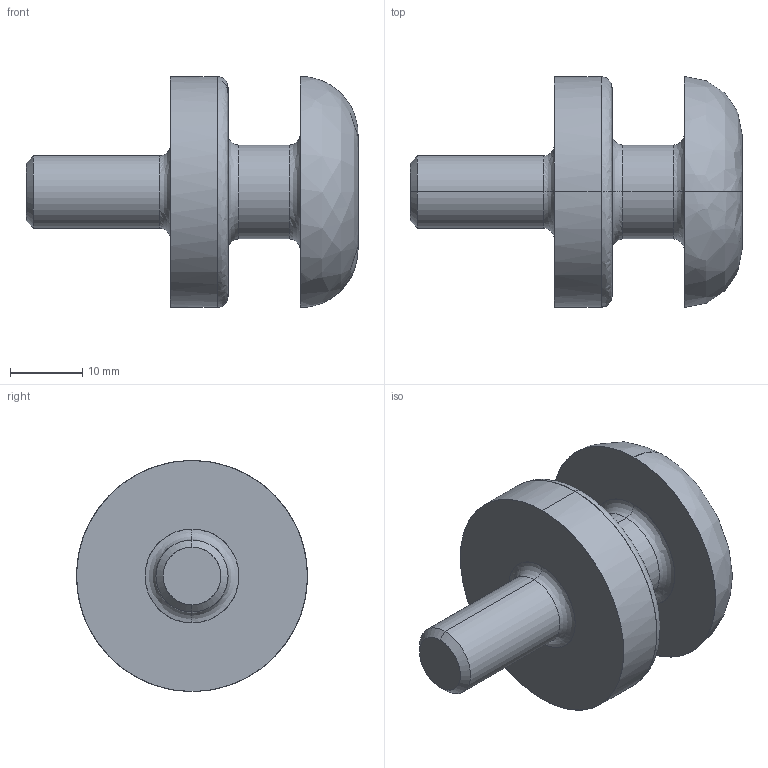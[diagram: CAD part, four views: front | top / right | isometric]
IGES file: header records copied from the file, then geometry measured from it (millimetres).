
Global section: file name: E:\UnigraphicsGraphicData\MISUMI_PRESS-PARTS\IGES\3d_chn10_03536_r00.igs; native system: NX V5.0; preprocessor: UGS NX IGES V5.0; author: MISUMI; date: 20110105.160219; units: millimetre
Bounding box: 46 x 32 x 32 mm (x, y, z)
Surface area: 5205.4 mm2 (no closed solid volume)
Topology: 0 solids, 0 shells, 30 faces, 196 edges, 196 vertices
Faces by surface type: bspline 30
